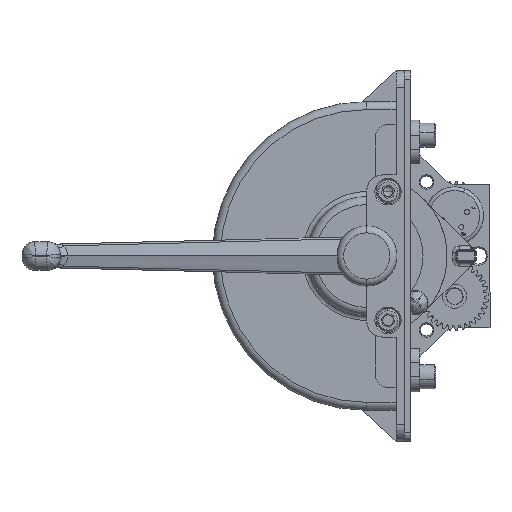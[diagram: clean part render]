
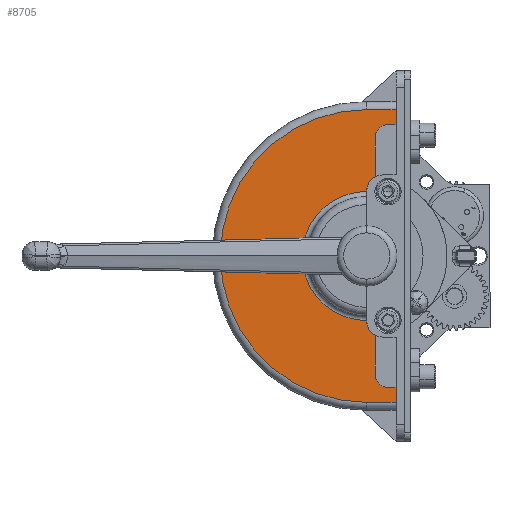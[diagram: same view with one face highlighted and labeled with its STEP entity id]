
A CAD part, left-side view. The second image highlights one B-rep face of the part: STEP entity #8705.
In plain terms, the highlighted planar face has unit normal (-1, 0, 0).
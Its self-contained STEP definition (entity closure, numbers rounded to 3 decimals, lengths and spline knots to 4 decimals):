
#213 = CARTESIAN_POINT ( 'NONE',  ( -1.3925, 0.125, 2.04 ) ) ;
#541 = VERTEX_POINT ( 'NONE', #55729 ) ;
#1460 = EDGE_CURVE ( 'NONE', #15222, #30486, #12944, .T. ) ;
#1572 = AXIS2_PLACEMENT_3D ( 'NONE', #45445, #23954, #61042 ) ;
#2095 = ORIENTED_EDGE ( 'NONE', *, *, #47455, .F. ) ;
#2225 = EDGE_CURVE ( 'NONE', #50055, #43611, #64231, .T. ) ;
#2905 = DIRECTION ( 'NONE',  ( 0., -1., 0. ) ) ;
#3045 = CARTESIAN_POINT ( 'NONE',  ( -1.3925, 0.125, 2.04 ) ) ;
#3493 = VECTOR ( 'NONE', #56233, 39.3701 ) ;
#4684 = DIRECTION ( 'NONE',  ( 0., 0., -1. ) ) ;
#5233 = VECTOR ( 'NONE', #13463, 39.3701 ) ;
#5378 = VERTEX_POINT ( 'NONE', #53577 ) ;
#6308 = LINE ( 'NONE', #46282, #32828 ) ;
#6659 = VERTEX_POINT ( 'NONE', #31340 ) ;
#7323 = AXIS2_PLACEMENT_3D ( 'NONE', #24109, #55988, #18580 ) ;
#7473 = VECTOR ( 'NONE', #58698, 39.3701 ) ;
#7849 = EDGE_CURVE ( 'NONE', #10912, #47574, #10876, .T. ) ;
#8549 = VERTEX_POINT ( 'NONE', #56997 ) ;
#8705 = ADVANCED_FACE ( 'NONE', ( #27873 ), #59724, .T. ) ;
#9394 = ORIENTED_EDGE ( 'NONE', *, *, #46456, .F. ) ;
#9502 = DIRECTION ( 'NONE',  ( 1., 0., 0. ) ) ;
#9752 = ORIENTED_EDGE ( 'NONE', *, *, #7849, .F. ) ;
#10876 = LINE ( 'NONE', #16776, #7473 ) ;
#10912 = VERTEX_POINT ( 'NONE', #28450 ) ;
#10916 = CARTESIAN_POINT ( 'NONE',  ( -1.3925, 0.2575, -2.04 ) ) ;
#11089 = ORIENTED_EDGE ( 'NONE', *, *, #1460, .T. ) ;
#12343 = CIRCLE ( 'NONE', #40066, 1.0031 ) ;
#12944 = LINE ( 'NONE', #18817, #3493 ) ;
#12987 = LINE ( 'NONE', #50400, #46975 ) ;
#13463 = DIRECTION ( 'NONE',  ( 0., 1., 0. ) ) ;
#14570 = VECTOR ( 'NONE', #49803, 39.3701 ) ;
#14759 = CARTESIAN_POINT ( 'NONE',  ( -1.3925, 0.58, -1.01 ) ) ;
#15222 = VERTEX_POINT ( 'NONE', #21899 ) ;
#15750 = EDGE_LOOP ( 'NONE', ( #60776, #42476, #9394, #52819, #17023, #68431, #55526, #9752, #65383, #2095, #37572, #28673, #68092, #35494, #33634, #11089 ) ) ;
#16104 = DIRECTION ( 'NONE',  ( 0., 0., 1. ) ) ;
#16776 = CARTESIAN_POINT ( 'NONE',  ( -1.3925, 0.125, -2.275 ) ) ;
#16787 = DIRECTION ( 'NONE',  ( 0., 0., 1. ) ) ;
#17023 = ORIENTED_EDGE ( 'NONE', *, *, #38509, .F. ) ;
#17836 = CIRCLE ( 'NONE', #34466, 2.275 ) ;
#18099 = CARTESIAN_POINT ( 'NONE',  ( -1.3925, 0.58, -1.0031 ) ) ;
#18271 = CARTESIAN_POINT ( 'NONE',  ( -1.3925, 0.445, -1.8525 ) ) ;
#18580 = DIRECTION ( 'NONE',  ( 0., 0., 1. ) ) ;
#18817 = CARTESIAN_POINT ( 'NONE',  ( -1.3925, 0.58, -1.0031 ) ) ;
#19565 = CARTESIAN_POINT ( 'NONE',  ( -1.3925, 0.2575, -1.8525 ) ) ;
#20563 = VERTEX_POINT ( 'NONE', #41743 ) ;
#21471 = CIRCLE ( 'NONE', #30345, 0.1875 ) ;
#21899 = CARTESIAN_POINT ( 'NONE',  ( -1.3925, 0.58, 1.0031 ) ) ;
#22248 = CARTESIAN_POINT ( 'NONE',  ( -1.3925, 0.2575, 2.04 ) ) ;
#23262 = LINE ( 'NONE', #49611, #63236 ) ;
#23954 = DIRECTION ( 'NONE',  ( -1., 0., 0. ) ) ;
#24109 = CARTESIAN_POINT ( 'NONE',  ( -1.3925, 0.33, 1.01 ) ) ;
#24795 = EDGE_CURVE ( 'NONE', #47574, #6659, #17836, .T. ) ;
#25060 = EDGE_CURVE ( 'NONE', #43611, #15222, #12343, .T. ) ;
#26356 = CARTESIAN_POINT ( 'NONE',  ( -1.3925, 0.445, 1.8525 ) ) ;
#27267 = DIRECTION ( 'NONE',  ( 0., 0., 1. ) ) ;
#27277 = CIRCLE ( 'NONE', #7323, 0.25 ) ;
#27873 = FACE_OUTER_BOUND ( 'NONE', #15750, .T. ) ;
#28045 = DIRECTION ( 'NONE',  ( 1., 0., 0. ) ) ;
#28450 = CARTESIAN_POINT ( 'NONE',  ( -1.3925, 0.125, -2.275 ) ) ;
#28667 = LINE ( 'NONE', #18271, #14570 ) ;
#28673 = ORIENTED_EDGE ( 'NONE', *, *, #33841, .F. ) ;
#29978 = DIRECTION ( 'NONE',  ( 0., 0., -1. ) ) ;
#30345 = AXIS2_PLACEMENT_3D ( 'NONE', #19565, #48945, #44074 ) ;
#30486 = VERTEX_POINT ( 'NONE', #68572 ) ;
#30768 = DIRECTION ( 'NONE',  ( 0., 1., 0. ) ) ;
#31340 = CARTESIAN_POINT ( 'NONE',  ( -1.3925, 0.58, 2.275 ) ) ;
#32828 = VECTOR ( 'NONE', #4684, 39.3701 ) ;
#33634 = ORIENTED_EDGE ( 'NONE', *, *, #25060, .T. ) ;
#33841 = EDGE_CURVE ( 'NONE', #541, #5378, #28667, .T. ) ;
#34466 = AXIS2_PLACEMENT_3D ( 'NONE', #56991, #9502, #29978 ) ;
#35022 = AXIS2_PLACEMENT_3D ( 'NONE', #58712, #64908, #16104 ) ;
#35309 = VERTEX_POINT ( 'NONE', #51614 ) ;
#35494 = ORIENTED_EDGE ( 'NONE', *, *, #2225, .T. ) ;
#37572 = ORIENTED_EDGE ( 'NONE', *, *, #54443, .F. ) ;
#38509 = EDGE_CURVE ( 'NONE', #35309, #56316, #6308, .T. ) ;
#40066 = AXIS2_PLACEMENT_3D ( 'NONE', #42953, #28045, #64054 ) ;
#41246 = EDGE_CURVE ( 'NONE', #56316, #42576, #60918, .T. ) ;
#41512 = CARTESIAN_POINT ( 'NONE',  ( -1.3925, 0.125, 2.275 ) ) ;
#41743 = CARTESIAN_POINT ( 'NONE',  ( -1.3925, 0.445, 1.232 ) ) ;
#42113 = EDGE_CURVE ( 'NONE', #35309, #6659, #62284, .T. ) ;
#42476 = ORIENTED_EDGE ( 'NONE', *, *, #59494, .F. ) ;
#42576 = VERTEX_POINT ( 'NONE', #22248 ) ;
#42953 = CARTESIAN_POINT ( 'NONE',  ( -1.3925, 0.58, 0. ) ) ;
#43207 = VERTEX_POINT ( 'NONE', #10916 ) ;
#43611 = VERTEX_POINT ( 'NONE', #18099 ) ;
#44074 = DIRECTION ( 'NONE',  ( 0., 0., -1. ) ) ;
#45445 = CARTESIAN_POINT ( 'NONE',  ( -1.3925, 0.2575, 1.8525 ) ) ;
#45783 = EDGE_CURVE ( 'NONE', #10912, #8549, #59234, .T. ) ;
#45943 = VECTOR ( 'NONE', #48151, 39.3701 ) ;
#46282 = CARTESIAN_POINT ( 'NONE',  ( -1.3925, 0.125, 2.275 ) ) ;
#46456 = EDGE_CURVE ( 'NONE', #42576, #62905, #63539, .T. ) ;
#46975 = VECTOR ( 'NONE', #2905, 39.3701 ) ;
#47455 = EDGE_CURVE ( 'NONE', #43207, #8549, #12987, .T. ) ;
#47574 = VERTEX_POINT ( 'NONE', #62478 ) ;
#48151 = DIRECTION ( 'NONE',  ( 0., 0., 1. ) ) ;
#48402 = DIRECTION ( 'NONE',  ( 1., 0., 0. ) ) ;
#48945 = DIRECTION ( 'NONE',  ( -1., 0., 0. ) ) ;
#49043 = EDGE_CURVE ( 'NONE', #30486, #20563, #27277, .T. ) ;
#49578 = VECTOR ( 'NONE', #30768, 39.3701 ) ;
#49611 = CARTESIAN_POINT ( 'NONE',  ( -1.3925, 0.445, 1.8525 ) ) ;
#49803 = DIRECTION ( 'NONE',  ( 0., 0., -1. ) ) ;
#50055 = VERTEX_POINT ( 'NONE', #14759 ) ;
#50400 = CARTESIAN_POINT ( 'NONE',  ( -1.3925, 0.125, -2.04 ) ) ;
#51614 = CARTESIAN_POINT ( 'NONE',  ( -1.3925, 0.125, 2.275 ) ) ;
#51650 = VECTOR ( 'NONE', #16787, 39.3701 ) ;
#52819 = ORIENTED_EDGE ( 'NONE', *, *, #41246, .F. ) ;
#53577 = CARTESIAN_POINT ( 'NONE',  ( -1.3925, 0.445, -1.8525 ) ) ;
#53791 = DIRECTION ( 'NONE',  ( 0., 0., -1. ) ) ;
#54443 = EDGE_CURVE ( 'NONE', #5378, #43207, #21471, .T. ) ;
#55526 = ORIENTED_EDGE ( 'NONE', *, *, #24795, .F. ) ;
#55729 = CARTESIAN_POINT ( 'NONE',  ( -1.3925, 0.445, -1.232 ) ) ;
#55988 = DIRECTION ( 'NONE',  ( 1., 0., 0. ) ) ;
#56233 = DIRECTION ( 'NONE',  ( 0., 0., 1. ) ) ;
#56316 = VERTEX_POINT ( 'NONE', #213 ) ;
#56991 = CARTESIAN_POINT ( 'NONE',  ( -1.3925, 0.58, 0. ) ) ;
#56997 = CARTESIAN_POINT ( 'NONE',  ( -1.3925, 0.125, -2.04 ) ) ;
#57908 = EDGE_CURVE ( 'NONE', #541, #50055, #59833, .T. ) ;
#58698 = DIRECTION ( 'NONE',  ( 0., 1., 0. ) ) ;
#58712 = CARTESIAN_POINT ( 'NONE',  ( -1.3925, 0.58, -1.0031 ) ) ;
#59234 = LINE ( 'NONE', #64755, #45943 ) ;
#59494 = EDGE_CURVE ( 'NONE', #62905, #20563, #23262, .T. ) ;
#59724 = PLANE ( 'NONE',  #35022 ) ;
#59833 = CIRCLE ( 'NONE', #63137, 0.25 ) ;
#60078 = CARTESIAN_POINT ( 'NONE',  ( -1.3925, 0.58, -1.0031 ) ) ;
#60776 = ORIENTED_EDGE ( 'NONE', *, *, #49043, .T. ) ;
#60918 = LINE ( 'NONE', #3045, #5233 ) ;
#61042 = DIRECTION ( 'NONE',  ( 0., 0., 1. ) ) ;
#62284 = LINE ( 'NONE', #41512, #49578 ) ;
#62478 = CARTESIAN_POINT ( 'NONE',  ( -1.3925, 0.58, -2.275 ) ) ;
#62905 = VERTEX_POINT ( 'NONE', #26356 ) ;
#63137 = AXIS2_PLACEMENT_3D ( 'NONE', #65683, #48402, #27267 ) ;
#63236 = VECTOR ( 'NONE', #53791, 39.3701 ) ;
#63539 = CIRCLE ( 'NONE', #1572, 0.1875 ) ;
#64054 = DIRECTION ( 'NONE',  ( 0., 0., -1. ) ) ;
#64231 = LINE ( 'NONE', #60078, #51650 ) ;
#64755 = CARTESIAN_POINT ( 'NONE',  ( -1.3925, 0.125, -1.0031 ) ) ;
#64908 = DIRECTION ( 'NONE',  ( -1., 0., 0. ) ) ;
#65383 = ORIENTED_EDGE ( 'NONE', *, *, #45783, .T. ) ;
#65683 = CARTESIAN_POINT ( 'NONE',  ( -1.3925, 0.33, -1.01 ) ) ;
#68092 = ORIENTED_EDGE ( 'NONE', *, *, #57908, .T. ) ;
#68431 = ORIENTED_EDGE ( 'NONE', *, *, #42113, .T. ) ;
#68572 = CARTESIAN_POINT ( 'NONE',  ( -1.3925, 0.58, 1.01 ) ) ;
